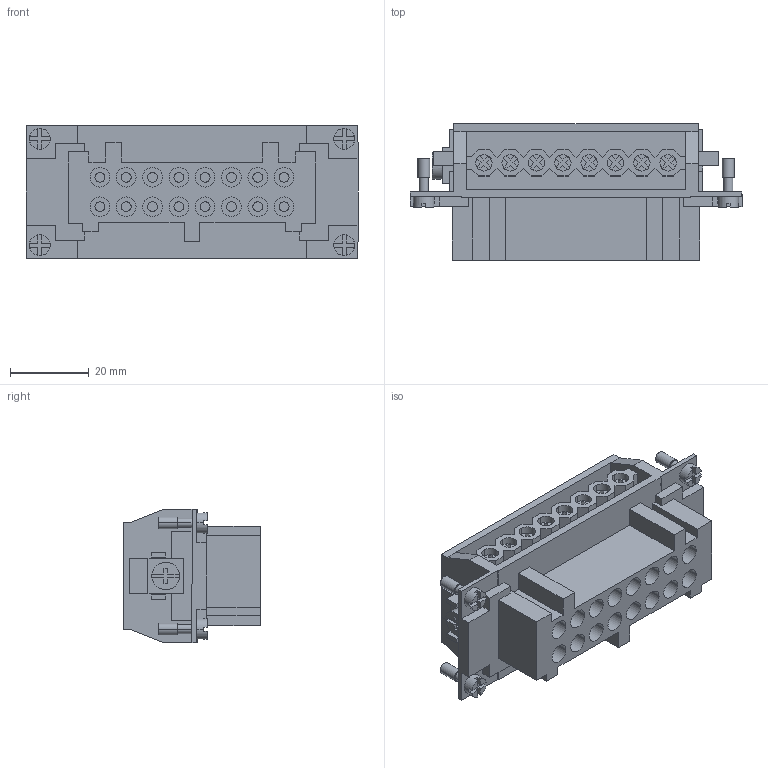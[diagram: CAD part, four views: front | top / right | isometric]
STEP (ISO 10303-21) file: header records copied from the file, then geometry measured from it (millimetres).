
FILE_DESCRIPTION (( 'STEP AP203' ), '1' );
FILE_NAME ('352259.STEP', '2025-06-27T08:20:13', ( '' ), ( '' ), 'SwSTEP 2.0', 'SolidWorks 2018', '' );
FILE_SCHEMA (( 'CONFIG_CONTROL_DESIGN' ));
Length unit declared in the file: millimetre
Products named in the file (1): 352259
Bounding box: 84.5 x 34.8 x 34 mm (x, y, z)
Volume: 42282.2 mm3; surface area: 23783.4 mm2
Topology: 1 solids, 1 shells, 824 faces, 2184 edges, 1456 vertices
Faces by surface type: plane 636, cylinder 188
Entity records: 25541 total; most frequent: CARTESIAN_POINT 4465, ORIENTED_EDGE 4368, DIRECTION 4310, EDGE_CURVE 2184, LINE 1708, VECTOR 1708, VERTEX_POINT 1456, AXIS2_PLACEMENT_3D 1301
